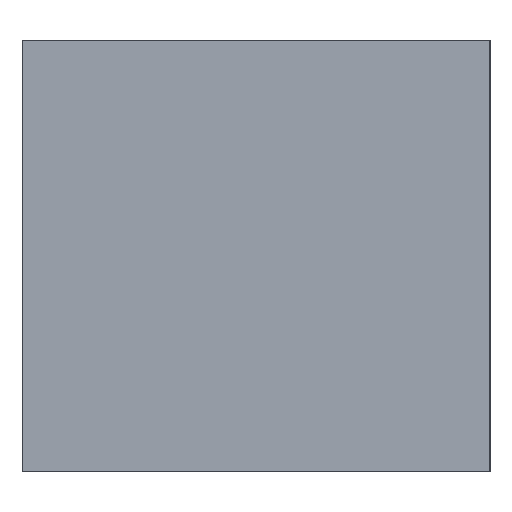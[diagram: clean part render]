
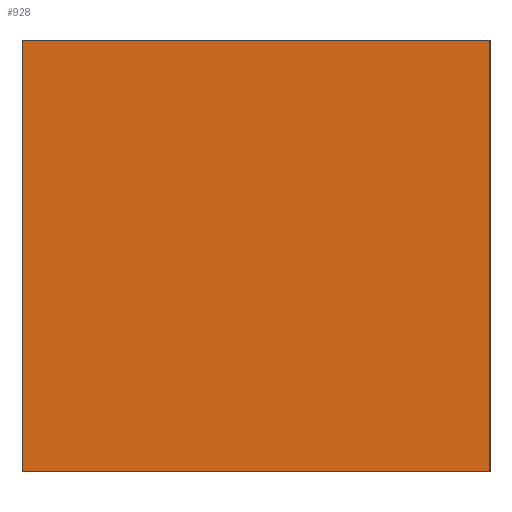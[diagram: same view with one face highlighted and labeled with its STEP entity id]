
A CAD part, left-side view. The second image highlights one B-rep face of the part: STEP entity #928.
In plain terms, the highlighted planar face has unit normal (-1, 0, 0).
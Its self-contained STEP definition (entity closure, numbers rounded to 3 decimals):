
#44 = PLANE('',#45);
#45 = AXIS2_PLACEMENT_3D('',#46,#47,#48);
#46 = CARTESIAN_POINT('',(-20.,-9.65,-8.9));
#47 = DIRECTION('',(0.,1.,0.));
#48 = DIRECTION('',(0.,0.,1.));
#72 = PLANE('',#73);
#73 = AXIS2_PLACEMENT_3D('',#74,#75,#76);
#74 = CARTESIAN_POINT('',(-20.,-9.65,-8.9));
#75 = DIRECTION('',(0.,0.,1.));
#76 = DIRECTION('',(1.,0.,0.));
#100 = PLANE('',#101);
#101 = AXIS2_PLACEMENT_3D('',#102,#103,#104);
#102 = CARTESIAN_POINT('',(-20.,9.65,-8.9));
#103 = DIRECTION('',(0.,1.,0.));
#104 = DIRECTION('',(0.,0.,1.));
#126 = PLANE('',#127);
#127 = AXIS2_PLACEMENT_3D('',#128,#129,#130);
#128 = CARTESIAN_POINT('',(-20.,-9.65,8.9));
#129 = DIRECTION('',(0.,0.,1.));
#130 = DIRECTION('',(1.,0.,0.));
#142 = VERTEX_POINT('',#143);
#143 = CARTESIAN_POINT('',(-20.,-9.65,-8.9));
#164 = EDGE_CURVE('',#142,#165,#167,.T.);
#165 = VERTEX_POINT('',#166);
#166 = CARTESIAN_POINT('',(-20.,-9.65,8.9));
#167 = SURFACE_CURVE('',#168,(#172,#179),.PCURVE_S1.);
#168 = LINE('',#169,#170);
#169 = CARTESIAN_POINT('',(-20.,-9.65,-8.9));
#170 = VECTOR('',#171,1.);
#171 = DIRECTION('',(0.,0.,1.));
#172 = PCURVE('',#44,#173);
#173 = DEFINITIONAL_REPRESENTATION('',(#174),#178);
#174 = LINE('',#175,#176);
#175 = CARTESIAN_POINT('',(0.,0.));
#176 = VECTOR('',#177,1.);
#177 = DIRECTION('',(1.,0.));
#178 = ( GEOMETRIC_REPRESENTATION_CONTEXT(2) 
PARAMETRIC_REPRESENTATION_CONTEXT() REPRESENTATION_CONTEXT('2D SPACE',''
  ) );
#179 = PCURVE('',#180,#185);
#180 = PLANE('',#181);
#181 = AXIS2_PLACEMENT_3D('',#182,#183,#184);
#182 = CARTESIAN_POINT('',(-20.,-9.65,-8.9));
#183 = DIRECTION('',(1.,0.,0.));
#184 = DIRECTION('',(0.,0.,1.));
#185 = DEFINITIONAL_REPRESENTATION('',(#186),#190);
#186 = LINE('',#187,#188);
#187 = CARTESIAN_POINT('',(0.,0.));
#188 = VECTOR('',#189,1.);
#189 = DIRECTION('',(1.,0.));
#190 = ( GEOMETRIC_REPRESENTATION_CONTEXT(2) 
PARAMETRIC_REPRESENTATION_CONTEXT() REPRESENTATION_CONTEXT('2D SPACE',''
  ) );
#217 = EDGE_CURVE('',#165,#218,#220,.T.);
#218 = VERTEX_POINT('',#219);
#219 = CARTESIAN_POINT('',(-20.,9.65,8.9));
#220 = SURFACE_CURVE('',#221,(#225,#232),.PCURVE_S1.);
#221 = LINE('',#222,#223);
#222 = CARTESIAN_POINT('',(-20.,-9.65,8.9));
#223 = VECTOR('',#224,1.);
#224 = DIRECTION('',(0.,1.,0.));
#225 = PCURVE('',#126,#226);
#226 = DEFINITIONAL_REPRESENTATION('',(#227),#231);
#227 = LINE('',#228,#229);
#228 = CARTESIAN_POINT('',(0.,0.));
#229 = VECTOR('',#230,1.);
#230 = DIRECTION('',(0.,1.));
#231 = ( GEOMETRIC_REPRESENTATION_CONTEXT(2) 
PARAMETRIC_REPRESENTATION_CONTEXT() REPRESENTATION_CONTEXT('2D SPACE',''
  ) );
#232 = PCURVE('',#180,#233);
#233 = DEFINITIONAL_REPRESENTATION('',(#234),#238);
#234 = LINE('',#235,#236);
#235 = CARTESIAN_POINT('',(17.8,0.));
#236 = VECTOR('',#237,1.);
#237 = DIRECTION('',(0.,-1.));
#238 = ( GEOMETRIC_REPRESENTATION_CONTEXT(2) 
PARAMETRIC_REPRESENTATION_CONTEXT() REPRESENTATION_CONTEXT('2D SPACE',''
  ) );
#737 = VERTEX_POINT('',#738);
#738 = CARTESIAN_POINT('',(-20.,9.65,-8.9));
#759 = EDGE_CURVE('',#737,#218,#760,.T.);
#760 = SURFACE_CURVE('',#761,(#765,#772),.PCURVE_S1.);
#761 = LINE('',#762,#763);
#762 = CARTESIAN_POINT('',(-20.,9.65,-8.9));
#763 = VECTOR('',#764,1.);
#764 = DIRECTION('',(0.,0.,1.));
#765 = PCURVE('',#100,#766);
#766 = DEFINITIONAL_REPRESENTATION('',(#767),#771);
#767 = LINE('',#768,#769);
#768 = CARTESIAN_POINT('',(0.,0.));
#769 = VECTOR('',#770,1.);
#770 = DIRECTION('',(1.,0.));
#771 = ( GEOMETRIC_REPRESENTATION_CONTEXT(2) 
PARAMETRIC_REPRESENTATION_CONTEXT() REPRESENTATION_CONTEXT('2D SPACE',''
  ) );
#772 = PCURVE('',#180,#773);
#773 = DEFINITIONAL_REPRESENTATION('',(#774),#778);
#774 = LINE('',#775,#776);
#775 = CARTESIAN_POINT('',(0.,-19.3));
#776 = VECTOR('',#777,1.);
#777 = DIRECTION('',(1.,0.));
#778 = ( GEOMETRIC_REPRESENTATION_CONTEXT(2) 
PARAMETRIC_REPRESENTATION_CONTEXT() REPRESENTATION_CONTEXT('2D SPACE',''
  ) );
#785 = EDGE_CURVE('',#142,#737,#786,.T.);
#786 = SURFACE_CURVE('',#787,(#791,#798),.PCURVE_S1.);
#787 = LINE('',#788,#789);
#788 = CARTESIAN_POINT('',(-20.,-9.65,-8.9));
#789 = VECTOR('',#790,1.);
#790 = DIRECTION('',(0.,1.,0.));
#791 = PCURVE('',#72,#792);
#792 = DEFINITIONAL_REPRESENTATION('',(#793),#797);
#793 = LINE('',#794,#795);
#794 = CARTESIAN_POINT('',(0.,0.));
#795 = VECTOR('',#796,1.);
#796 = DIRECTION('',(0.,1.));
#797 = ( GEOMETRIC_REPRESENTATION_CONTEXT(2) 
PARAMETRIC_REPRESENTATION_CONTEXT() REPRESENTATION_CONTEXT('2D SPACE',''
  ) );
#798 = PCURVE('',#180,#799);
#799 = DEFINITIONAL_REPRESENTATION('',(#800),#804);
#800 = LINE('',#801,#802);
#801 = CARTESIAN_POINT('',(0.,0.));
#802 = VECTOR('',#803,1.);
#803 = DIRECTION('',(0.,-1.));
#804 = ( GEOMETRIC_REPRESENTATION_CONTEXT(2) 
PARAMETRIC_REPRESENTATION_CONTEXT() REPRESENTATION_CONTEXT('2D SPACE',''
  ) );
#928 = ADVANCED_FACE('',(#929),#180,.F.);
#929 = FACE_BOUND('',#930,.F.);
#930 = EDGE_LOOP('',(#931,#932,#933,#934));
#931 = ORIENTED_EDGE('',*,*,#164,.F.);
#932 = ORIENTED_EDGE('',*,*,#785,.T.);
#933 = ORIENTED_EDGE('',*,*,#759,.T.);
#934 = ORIENTED_EDGE('',*,*,#217,.F.);
